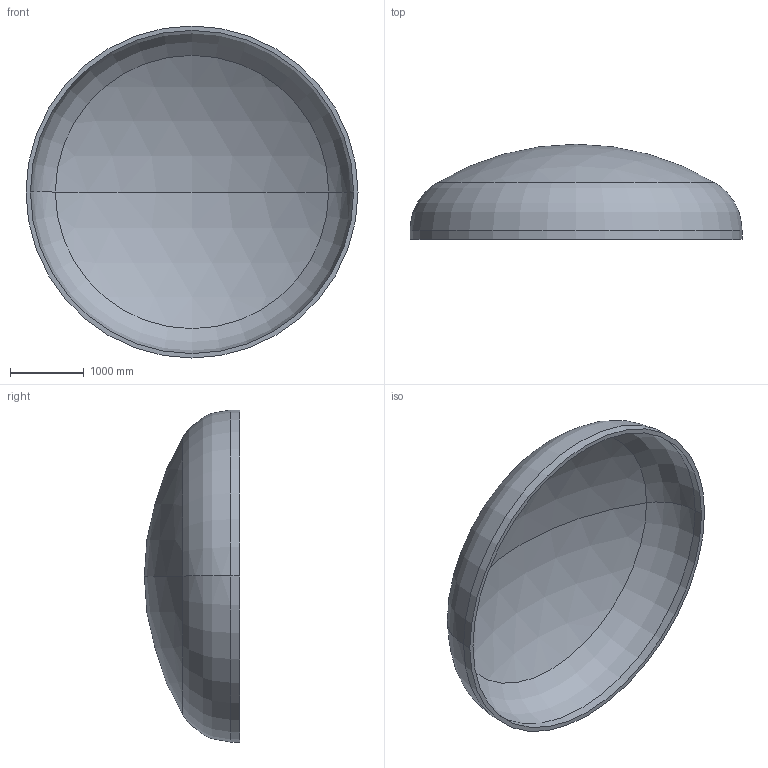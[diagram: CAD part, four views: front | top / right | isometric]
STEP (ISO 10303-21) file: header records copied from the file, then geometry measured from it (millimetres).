
FILE_DESCRIPTION (( 'STEP AP203' ), '1' );
FILE_NAME ('DIN 28013 Korbbogenform_-_Boden DIN 28013 - 4500 x 120 - I - s=60.step', '2016-07-01T23:35:46', ( '' ), ( '' ), 'SwSTEP 2.0', 'SolidWorks 2013', '' );
FILE_SCHEMA (( 'CONFIG_CONTROL_DESIGN' ));
Length unit declared in the file: millimetre
Products named in the file (1): DIN 28013 Korbbogenform_-_Boden DIN 28013 - 4500 x 120 - I - s=60
Bounding box: 4500 x 1289.22 x 4500 mm (x, y, z)
Volume: 1399718371.4 mm3; surface area: 47501722.1 mm2
Topology: 1 solids, 1 shells, 13 faces, 24 edges, 14 vertices
Faces by surface type: torus 4, cylinder 4, sphere 4, plane 1
Entity records: 407 total; most frequent: DIRECTION 72, CARTESIAN_POINT 52, ORIENTED_EDGE 48, AXIS2_PLACEMENT_3D 34, EDGE_CURVE 24, CIRCLE 20, EDGE_LOOP 14, VERTEX_POINT 14
